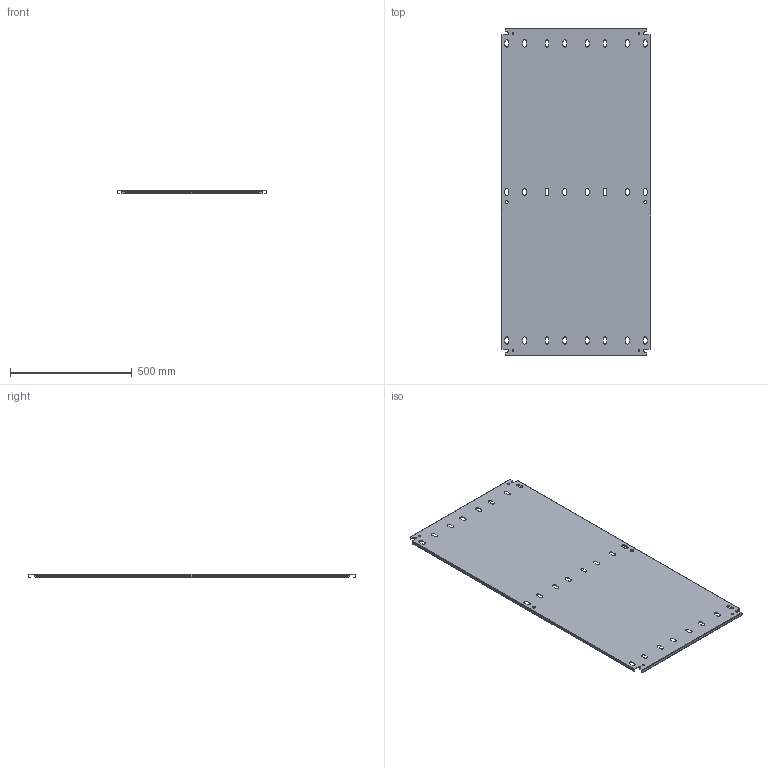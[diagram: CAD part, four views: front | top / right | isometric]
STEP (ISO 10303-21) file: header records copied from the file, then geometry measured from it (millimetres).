
FILE_DESCRIPTION(/* description */ ('1412BTSSCU 24.125" x 53" Right Inner Panel'),/* implementation_level */ '2;1');
FILE_NAME(/* name */ 'C:\Vault_Workspace\Inventor_Dwg\BoxCad\Result\1412BTSSCU121004DT\e-mail\3D\1412BTSSCU121004DTIP2.stp',/* time_stamp */ '2022-11-03T18:31:30-04:00',/* author */ ('BoxCad'),/* organization */ (''),/* preprocessor_version */ 'ST-DEVELOPER v18.1',/* originating_system */ 'Autodesk Inventor 2020',/* authorisation */ '');
FILE_SCHEMA (('AUTOMOTIVE_DESIGN { 1 0 10303 214 3 1 1 }'));
Length unit declared in the file: inch
Products named in the file (2): 1412BTSSCU121004DTIP2; 1412BTSSCU121004DTIP2-P
Assembly tree (1 placements, depth 2):
  1412BTSSCU121004DTIP2
    1412BTSSCU121004DTIP2-P
Bounding box: 612.77 x 1346.2 x 13 mm (x, y, z)
Volume: 1523208 mm3; surface area: 1774426.5 mm2
Topology: 1 solids, 1 shells, 216 faces, 642 edges, 428 vertices
Faces by surface type: plane 118, cylinder 98
Full cylindrical faces by diameter (mm): 7.366 x4, 12.7 x2
Entity records: 7471 total; most frequent: CARTESIAN_POINT 1289, ORIENTED_EDGE 1284, DIRECTION 1276, EDGE_CURVE 642, LINE 446, VECTOR 446, VERTEX_POINT 428, AXIS2_PLACEMENT_3D 415
